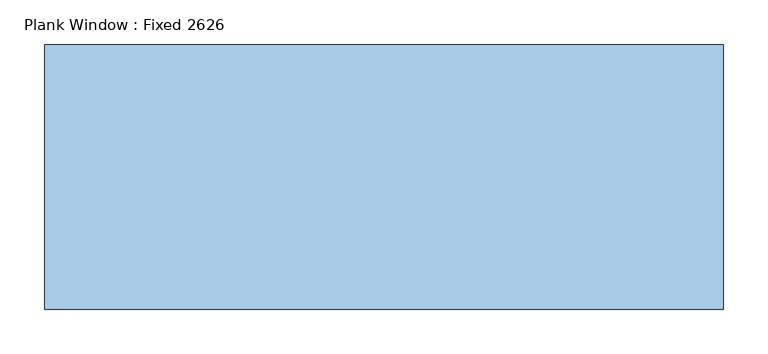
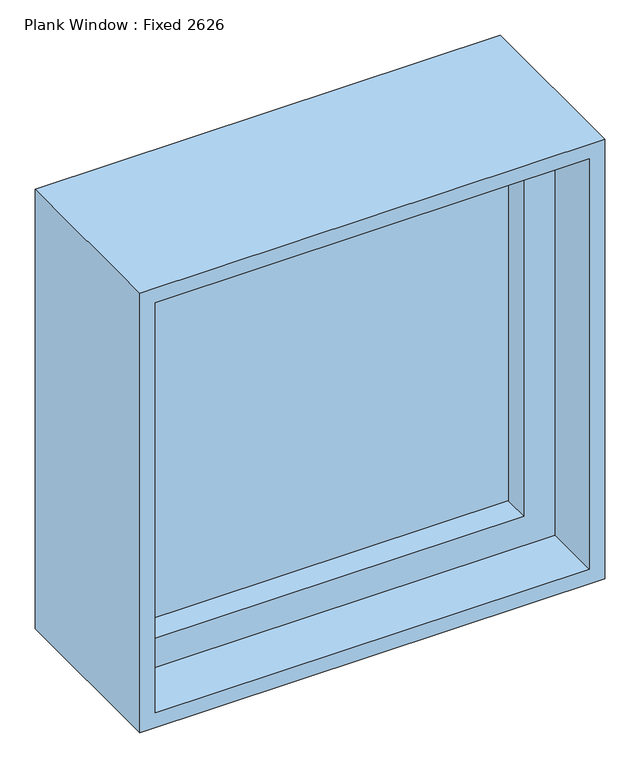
"""IFC4 building model written with IfcOpenShell, lengths in millimetres: window geometry, Plank Window : Fixed 2626."""

from ifc_helpers import new_model, si_unit, frame, origin, place, context, project, spatial, polyline, outline, extrude, source, transform, mapped, element, save


def plank_window_fixed_2626_f09a5b78(model_context):
    return source(origin(), model_context, "Body", "SweptSolid", [
        extrude(outline(polyline([(304.8, -6.35), (-304.8, -6.35), (-304.8, 6.35), (304.8, 6.35), (304.8, -6.35)])), frame((0.0, 0.0, 990.6), z_axis=(0.0, 0.0, 1.0), x_axis=(1.0, 0.0, 0.0)), (0.0, 0.0, 1.0), 609.6),
        extrude(outline(polyline([(1651.0, -355.6), (939.8, -355.6), (939.8, 355.6), (1651.0, 355.6), (1651.0, -355.6)]), holes=[polyline([(1600.2, -304.8), (1600.2, 304.8), (990.6, 304.8), (990.6, -304.8), (1600.2, -304.8)])]), frame((0.0, -50.8, 0.0), z_axis=(0.0, 1.0, 0.0), x_axis=(0.0, 0.0, 1.0)), (0.0, 0.0, 1.0), 101.6),
        extrude(outline(polyline([(1676.4, -381.0), (914.4, -381.0), (914.4, 381.0), (1676.4, 381.0), (1676.4, -381.0)]), holes=[polyline([(1651.0, -355.6), (1651.0, 355.6), (939.8, 355.6), (939.8, -355.6), (1651.0, -355.6)])]), frame((0.0, -148.43125, 0.0), z_axis=(0.0, 1.0, 0.0), x_axis=(0.0, 0.0, 1.0)), (0.0, 0.0, 1.0), 296.8625),
    ])


if __name__ == "__main__":
    model = new_model("IFC4")
    model_context = context("Model", 3, world=origin())
    ifc_project = project(units=[si_unit("LENGTHUNIT", "METRE", prefix="MILLI")], contexts=[model_context])
    site = spatial("IfcSite", under=ifc_project)
    building = spatial("IfcBuilding", under=site)
    placement = place(None, origin())
    plank_window_fixed_2626_shape = plank_window_fixed_2626_f09a5b78(model_context)
    element("IfcWindow", 1, ObjectType="Plank Window : Fixed 2626", at=placement, inside=building, context=model_context, shape_type="MappedRepresentation", body=[
        mapped(plank_window_fixed_2626_shape, transform((0.0, 0.0, 0.0), x_axis=(1.0, 0.0, 0.0), y_axis=(0.0, 1.0, 0.0), z_axis=(0.0, 0.0, 1.0))),
    ])
    save(model, "model.ifc")
